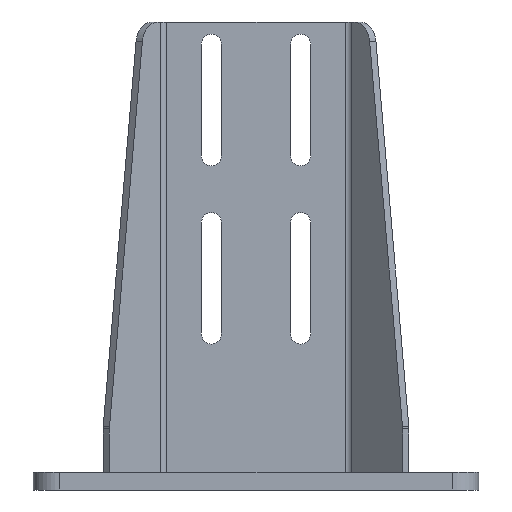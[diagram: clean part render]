
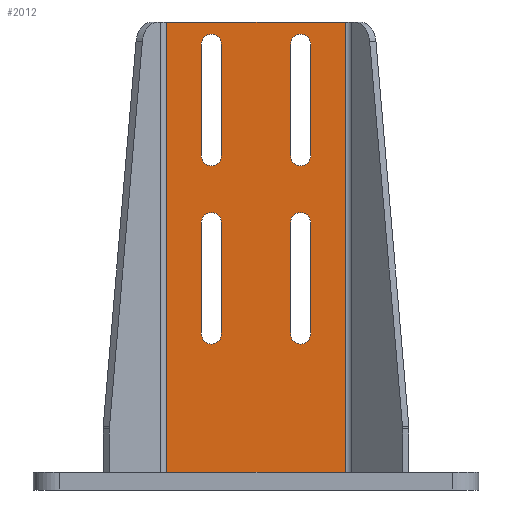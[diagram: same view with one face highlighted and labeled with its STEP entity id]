
A CAD part, front view. The second image highlights one B-rep face of the part: STEP entity #2012.
In plain terms, the highlighted planar face has unit normal (0, -1, 0) as drawn and (0, 0, 1) by its records, which use the part's own axes.
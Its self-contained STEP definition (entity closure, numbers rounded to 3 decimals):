
#55=FACE_BOUND('',#357,.T.);
#56=FACE_BOUND('',#358,.T.);
#57=FACE_BOUND('',#359,.T.);
#58=FACE_BOUND('',#360,.T.);
#128=PLANE('',#2220);
#230=FACE_OUTER_BOUND('',#356,.T.);
#356=EDGE_LOOP('',(#1794,#1795,#1796,#1797,#1798,#1799,#1800,#1801,#1802,
#1803,#1804,#1805));
#357=EDGE_LOOP('',(#1806,#1807,#1808,#1809));
#358=EDGE_LOOP('',(#1810,#1811,#1812,#1813));
#359=EDGE_LOOP('',(#1814,#1815,#1816,#1817));
#360=EDGE_LOOP('',(#1818,#1819,#1820,#1821));
#505=LINE('',#3083,#735);
#509=LINE('',#3092,#739);
#513=LINE('',#3107,#743);
#517=LINE('',#3116,#747);
#527=LINE('',#3148,#757);
#528=LINE('',#3151,#758);
#531=LINE('',#3158,#761);
#535=LINE('',#3166,#765);
#538=LINE('',#3171,#768);
#560=LINE('',#3226,#790);
#564=LINE('',#3235,#794);
#568=LINE('',#3250,#798);
#572=LINE('',#3259,#802);
#581=LINE('',#3290,#811);
#585=LINE('',#3297,#815);
#586=LINE('',#3300,#816);
#587=LINE('',#3302,#817);
#588=LINE('',#3304,#818);
#589=LINE('',#3305,#819);
#590=LINE('',#3306,#820);
#735=VECTOR('',#2512,10.);
#739=VECTOR('',#2518,10.);
#743=VECTOR('',#2536,10.);
#747=VECTOR('',#2542,10.);
#757=VECTOR('',#2580,10.);
#758=VECTOR('',#2583,10.);
#761=VECTOR('',#2588,10.);
#765=VECTOR('',#2594,10.);
#768=VECTOR('',#2599,10.);
#790=VECTOR('',#2651,10.);
#794=VECTOR('',#2657,10.);
#798=VECTOR('',#2675,10.);
#802=VECTOR('',#2681,10.);
#811=VECTOR('',#2718,10.);
#815=VECTOR('',#2724,10.);
#816=VECTOR('',#2727,10.);
#817=VECTOR('',#2728,10.);
#818=VECTOR('',#2729,10.);
#819=VECTOR('',#2730,10.);
#820=VECTOR('',#2731,10.);
#857=CIRCLE('',#2156,4.5);
#860=CIRCLE('',#2160,4.5);
#861=CIRCLE('',#2164,4.5);
#864=CIRCLE('',#2168,4.5);
#874=CIRCLE('',#2199,4.5);
#875=CIRCLE('',#2201,4.5);
#878=CIRCLE('',#2207,4.5);
#879=CIRCLE('',#2209,4.5);
#986=VERTEX_POINT('',#3081);
#987=VERTEX_POINT('',#3082);
#990=VERTEX_POINT('',#3090);
#991=VERTEX_POINT('',#3091);
#994=VERTEX_POINT('',#3105);
#995=VERTEX_POINT('',#3106);
#998=VERTEX_POINT('',#3114);
#999=VERTEX_POINT('',#3115);
#1003=VERTEX_POINT('',#3131);
#1007=VERTEX_POINT('',#3141);
#1008=VERTEX_POINT('',#3150);
#1010=VERTEX_POINT('',#3156);
#1011=VERTEX_POINT('',#3157);
#1014=VERTEX_POINT('',#3165);
#1032=VERTEX_POINT('',#3224);
#1033=VERTEX_POINT('',#3225);
#1036=VERTEX_POINT('',#3233);
#1037=VERTEX_POINT('',#3234);
#1040=VERTEX_POINT('',#3248);
#1041=VERTEX_POINT('',#3249);
#1044=VERTEX_POINT('',#3257);
#1045=VERTEX_POINT('',#3258);
#1050=VERTEX_POINT('',#3276);
#1052=VERTEX_POINT('',#3282);
#1055=VERTEX_POINT('',#3295);
#1056=VERTEX_POINT('',#3299);
#1057=VERTEX_POINT('',#3301);
#1058=VERTEX_POINT('',#3303);
#1213=EDGE_CURVE('',#986,#987,#505,.T.);
#1217=EDGE_CURVE('',#990,#991,#509,.T.);
#1221=EDGE_CURVE('',#987,#990,#857,.T.);
#1224=EDGE_CURVE('',#991,#986,#860,.T.);
#1225=EDGE_CURVE('',#994,#995,#513,.T.);
#1229=EDGE_CURVE('',#998,#999,#517,.T.);
#1233=EDGE_CURVE('',#995,#998,#861,.T.);
#1236=EDGE_CURVE('',#999,#994,#864,.T.);
#1247=EDGE_CURVE('',#1003,#1007,#527,.T.);
#1248=EDGE_CURVE('',#1008,#1007,#528,.T.);
#1251=EDGE_CURVE('',#1010,#1011,#531,.T.);
#1255=EDGE_CURVE('',#1011,#1014,#535,.T.);
#1258=EDGE_CURVE('',#1014,#1008,#538,.T.);
#1284=EDGE_CURVE('',#1032,#1033,#560,.T.);
#1288=EDGE_CURVE('',#1036,#1037,#564,.T.);
#1293=EDGE_CURVE('',#1033,#1036,#874,.T.);
#1294=EDGE_CURVE('',#1037,#1032,#875,.T.);
#1296=EDGE_CURVE('',#1040,#1041,#568,.T.);
#1300=EDGE_CURVE('',#1044,#1045,#572,.T.);
#1305=EDGE_CURVE('',#1041,#1044,#878,.T.);
#1306=EDGE_CURVE('',#1045,#1040,#879,.T.);
#1317=EDGE_CURVE('',#1050,#1052,#581,.T.);
#1321=EDGE_CURVE('',#1055,#1052,#585,.T.);
#1322=EDGE_CURVE('',#1056,#1055,#586,.T.);
#1323=EDGE_CURVE('',#1057,#1056,#587,.T.);
#1324=EDGE_CURVE('',#1058,#1057,#588,.T.);
#1325=EDGE_CURVE('',#1010,#1058,#589,.T.);
#1326=EDGE_CURVE('',#1003,#1050,#590,.T.);
#1794=ORIENTED_EDGE('',*,*,#1317,.T.);
#1795=ORIENTED_EDGE('',*,*,#1321,.F.);
#1796=ORIENTED_EDGE('',*,*,#1322,.F.);
#1797=ORIENTED_EDGE('',*,*,#1323,.F.);
#1798=ORIENTED_EDGE('',*,*,#1324,.F.);
#1799=ORIENTED_EDGE('',*,*,#1325,.F.);
#1800=ORIENTED_EDGE('',*,*,#1251,.T.);
#1801=ORIENTED_EDGE('',*,*,#1255,.T.);
#1802=ORIENTED_EDGE('',*,*,#1258,.T.);
#1803=ORIENTED_EDGE('',*,*,#1248,.T.);
#1804=ORIENTED_EDGE('',*,*,#1247,.F.);
#1805=ORIENTED_EDGE('',*,*,#1326,.T.);
#1806=ORIENTED_EDGE('',*,*,#1229,.F.);
#1807=ORIENTED_EDGE('',*,*,#1233,.F.);
#1808=ORIENTED_EDGE('',*,*,#1225,.F.);
#1809=ORIENTED_EDGE('',*,*,#1236,.F.);
#1810=ORIENTED_EDGE('',*,*,#1217,.F.);
#1811=ORIENTED_EDGE('',*,*,#1221,.F.);
#1812=ORIENTED_EDGE('',*,*,#1213,.F.);
#1813=ORIENTED_EDGE('',*,*,#1224,.F.);
#1814=ORIENTED_EDGE('',*,*,#1288,.T.);
#1815=ORIENTED_EDGE('',*,*,#1294,.T.);
#1816=ORIENTED_EDGE('',*,*,#1284,.T.);
#1817=ORIENTED_EDGE('',*,*,#1293,.T.);
#1818=ORIENTED_EDGE('',*,*,#1300,.T.);
#1819=ORIENTED_EDGE('',*,*,#1306,.T.);
#1820=ORIENTED_EDGE('',*,*,#1296,.T.);
#1821=ORIENTED_EDGE('',*,*,#1305,.T.);
#2012=ADVANCED_FACE('',(#230,#55,#56,#57,#58),#128,.T.);
#2156=AXIS2_PLACEMENT_3D('',#3099,#2524,#2525);
#2160=AXIS2_PLACEMENT_3D('',#3103,#2532,#2533);
#2164=AXIS2_PLACEMENT_3D('',#3123,#2548,#2549);
#2168=AXIS2_PLACEMENT_3D('',#3127,#2556,#2557);
#2199=AXIS2_PLACEMENT_3D('',#3243,#2665,#2666);
#2201=AXIS2_PLACEMENT_3D('',#3245,#2669,#2670);
#2207=AXIS2_PLACEMENT_3D('',#3267,#2689,#2690);
#2209=AXIS2_PLACEMENT_3D('',#3269,#2693,#2694);
#2220=AXIS2_PLACEMENT_3D('',#3298,#2725,#2726);
#2512=DIRECTION('',(0.,-1.,0.));
#2518=DIRECTION('',(0.,1.,0.));
#2524=DIRECTION('center_axis',(0.,0.,1.));
#2525=DIRECTION('ref_axis',(1.,0.,0.));
#2532=DIRECTION('center_axis',(0.,0.,1.));
#2533=DIRECTION('ref_axis',(1.,0.,0.));
#2536=DIRECTION('',(0.,-1.,0.));
#2542=DIRECTION('',(0.,1.,0.));
#2548=DIRECTION('center_axis',(0.,0.,1.));
#2549=DIRECTION('ref_axis',(1.,0.,0.));
#2556=DIRECTION('center_axis',(0.,0.,1.));
#2557=DIRECTION('ref_axis',(1.,0.,0.));
#2580=DIRECTION('',(0.,-1.,0.));
#2583=DIRECTION('',(1.,0.,0.));
#2588=DIRECTION('',(0.,-1.,0.));
#2594=DIRECTION('',(1.,0.,0.));
#2599=DIRECTION('',(0.,1.,0.));
#2651=DIRECTION('',(0.,-1.,0.));
#2657=DIRECTION('',(0.,1.,0.));
#2665=DIRECTION('center_axis',(0.,0.,-1.));
#2666=DIRECTION('ref_axis',(-1.,0.,0.));
#2669=DIRECTION('center_axis',(0.,0.,-1.));
#2670=DIRECTION('ref_axis',(-1.,0.,0.));
#2675=DIRECTION('',(0.,-1.,0.));
#2681=DIRECTION('',(0.,1.,0.));
#2689=DIRECTION('center_axis',(0.,0.,-1.));
#2690=DIRECTION('ref_axis',(-1.,0.,0.));
#2693=DIRECTION('center_axis',(0.,0.,-1.));
#2694=DIRECTION('ref_axis',(-1.,0.,0.));
#2718=DIRECTION('',(0.,-1.,0.));
#2724=DIRECTION('',(-1.,0.,0.));
#2725=DIRECTION('center_axis',(0.,0.,1.));
#2726=DIRECTION('ref_axis',(1.,0.,0.));
#2727=DIRECTION('',(0.,1.,0.));
#2728=DIRECTION('',(-1.,0.,0.));
#2729=DIRECTION('',(0.,-1.,0.));
#2730=DIRECTION('',(-1.,0.,0.));
#2731=DIRECTION('',(-1.,0.,0.));
#3081=CARTESIAN_POINT('',(60.5,112.,4.));
#3082=CARTESIAN_POINT('',(60.5,62.,4.));
#3083=CARTESIAN_POINT('',(60.5,54.25,4.));
#3090=CARTESIAN_POINT('',(69.5,62.,4.));
#3091=CARTESIAN_POINT('',(69.5,112.,4.));
#3092=CARTESIAN_POINT('',(69.5,29.25,4.));
#3099=CARTESIAN_POINT('Origin',(65.,62.,4.));
#3103=CARTESIAN_POINT('Origin',(65.,112.,4.));
#3105=CARTESIAN_POINT('',(60.5,192.,4.));
#3106=CARTESIAN_POINT('',(60.5,142.,4.));
#3107=CARTESIAN_POINT('',(60.5,94.25,4.));
#3114=CARTESIAN_POINT('',(69.5,142.,4.));
#3115=CARTESIAN_POINT('',(69.5,192.,4.));
#3116=CARTESIAN_POINT('',(69.5,69.25,4.));
#3123=CARTESIAN_POINT('Origin',(65.,142.,4.));
#3127=CARTESIAN_POINT('Origin',(65.,192.,4.));
#3131=CARTESIAN_POINT('',(85.,202.,4.));
#3141=CARTESIAN_POINT('',(85.,0.,4.));
#3148=CARTESIAN_POINT('',(85.,-1.75,4.));
#3150=CARTESIAN_POINT('',(77.5,0.,4.));
#3151=CARTESIAN_POINT('',(122.,0.,4.));
#3156=CARTESIAN_POINT('',(62.5,0.,4.));
#3157=CARTESIAN_POINT('',(62.5,-7.,4.));
#3158=CARTESIAN_POINT('',(62.5,-7.,4.));
#3165=CARTESIAN_POINT('',(77.5,-7.,4.));
#3166=CARTESIAN_POINT('',(77.5,-7.,4.));
#3171=CARTESIAN_POINT('',(77.5,0.,4.));
#3224=CARTESIAN_POINT('',(29.5,112.,4.));
#3225=CARTESIAN_POINT('',(29.5,62.,4.));
#3226=CARTESIAN_POINT('',(29.5,54.25,4.));
#3233=CARTESIAN_POINT('',(20.5,62.,4.));
#3234=CARTESIAN_POINT('',(20.5,112.,4.));
#3235=CARTESIAN_POINT('',(20.5,29.25,4.));
#3243=CARTESIAN_POINT('Origin',(25.,62.,4.));
#3245=CARTESIAN_POINT('Origin',(25.,112.,4.));
#3248=CARTESIAN_POINT('',(29.5,192.,4.));
#3249=CARTESIAN_POINT('',(29.5,142.,4.));
#3250=CARTESIAN_POINT('',(29.5,94.25,4.));
#3257=CARTESIAN_POINT('',(20.5,142.,4.));
#3258=CARTESIAN_POINT('',(20.5,192.,4.));
#3259=CARTESIAN_POINT('',(20.5,69.25,4.));
#3267=CARTESIAN_POINT('Origin',(25.,142.,4.));
#3269=CARTESIAN_POINT('Origin',(25.,192.,4.));
#3276=CARTESIAN_POINT('',(5.,202.,4.));
#3282=CARTESIAN_POINT('',(5.,0.,4.));
#3290=CARTESIAN_POINT('',(5.,-1.75,4.));
#3295=CARTESIAN_POINT('',(12.5,0.,4.));
#3297=CARTESIAN_POINT('',(-32.,0.,4.));
#3298=CARTESIAN_POINT('Origin',(20.,-3.5,4.));
#3299=CARTESIAN_POINT('',(12.5,-7.,4.));
#3300=CARTESIAN_POINT('',(12.5,0.,4.));
#3301=CARTESIAN_POINT('',(27.5,-7.,4.));
#3302=CARTESIAN_POINT('',(12.5,-7.,4.));
#3303=CARTESIAN_POINT('',(27.5,0.,4.));
#3304=CARTESIAN_POINT('',(27.5,-7.,4.));
#3305=CARTESIAN_POINT('',(0.,0.,4.));
#3306=CARTESIAN_POINT('',(45.,202.,4.));
